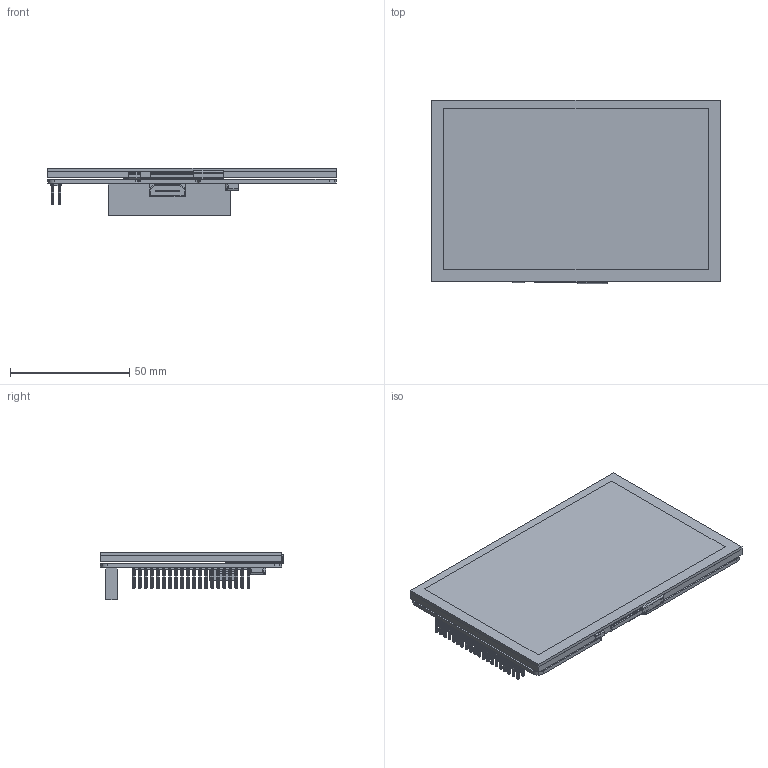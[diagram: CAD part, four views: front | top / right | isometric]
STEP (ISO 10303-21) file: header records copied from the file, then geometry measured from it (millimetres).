
FILE_DESCRIPTION(('STEP AP214'),'1');
FILE_NAME('tmp0.STEP','2018-12-12T09:44:17',(' '),(' '),'Spatial InterOp 3D',' ',' ');
FILE_SCHEMA(('automotive_design'));
Length unit declared in the file: millimetre
Products named in the file (73): 1; 2; 3; 4; 5; 6; 7; 8; 9; 10; 11; 12; 13; 14; 15; 16; 17; 18; 19; 20; 21; 22; 23; 24; 25; 26; 27; 28; 29; 30; 31; 32; 33; 34; 35; 36; 37; 38; 39; 40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
Bounding box: 120.7 x 76.63 x 20.02 mm (x, y, z)
Volume: 55908.1 mm3; surface area: 98511 mm2
Topology: 73 solids, 73 shells, 1626 faces, 3976 edges, 2372 vertices
Faces by surface type: cylinder 788, plane 666, sphere 168, bspline 4
Entity records: 61222 total; most frequent: DIRECTION 8786, CARTESIAN_POINT 7971, ORIENTED_EDGE 7616, EDGE_CURVE 3808, AXIS2_PLACEMENT_3D 3283, VERTEX_POINT 2372, LINE 2220, VECTOR 2220
